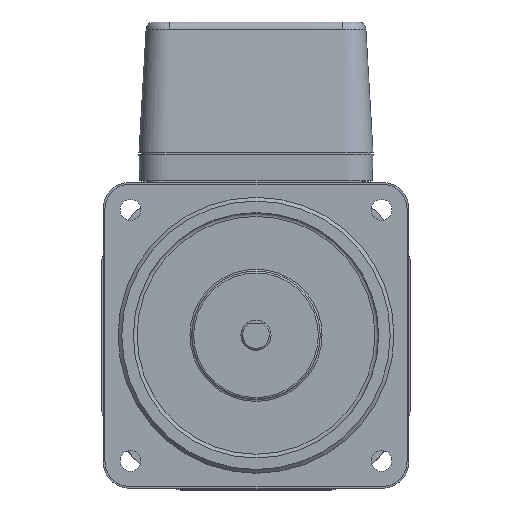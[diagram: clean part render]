
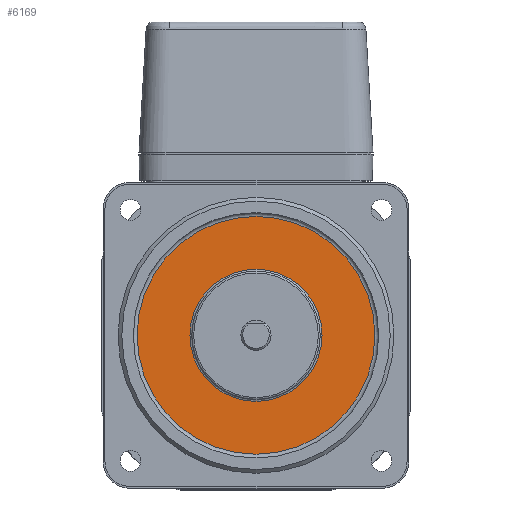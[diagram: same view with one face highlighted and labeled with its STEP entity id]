
A CAD part, top view. The second image highlights one B-rep face of the part: STEP entity #6169.
In plain terms, the highlighted planar face has unit normal (0, 0, 1).
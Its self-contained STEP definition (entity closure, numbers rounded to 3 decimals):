
#377 = CARTESIAN_POINT ( 'NONE',  ( 0., 0., -3.3 ) ) ;
#619 = DIRECTION ( 'NONE',  ( 0., 0., 1. ) ) ;
#754 = EDGE_LOOP ( 'NONE', ( #8415 ) ) ;
#1013 = CIRCLE ( 'NONE', #8429, 31.5 ) ;
#1910 = EDGE_CURVE ( 'NONE', #7529, #7529, #1013, .T. ) ;
#1920 = FACE_OUTER_BOUND ( 'NONE', #754, .T. ) ;
#2014 = CARTESIAN_POINT ( 'NONE',  ( 17.5, 0., -3.3 ) ) ;
#3142 = CARTESIAN_POINT ( 'NONE',  ( 31.5, 0., -3.3 ) ) ;
#3393 = EDGE_LOOP ( 'NONE', ( #11959 ) ) ;
#3603 = PLANE ( 'NONE',  #5941 ) ;
#3859 = CIRCLE ( 'NONE', #9418, 17.5 ) ;
#4067 = VERTEX_POINT ( 'NONE', #2014 ) ;
#5209 = FACE_BOUND ( 'NONE', #3393, .T. ) ;
#5279 = CARTESIAN_POINT ( 'NONE',  ( 0., 0., -3.3 ) ) ;
#5473 = DIRECTION ( 'NONE',  ( 1., 0., 0. ) ) ;
#5941 = AXIS2_PLACEMENT_3D ( 'NONE', #11144, #10262, #5473 ) ;
#6169 = ADVANCED_FACE ( 'NONE', ( #1920, #5209 ), #3603, .T. ) ;
#6476 = EDGE_CURVE ( 'NONE', #4067, #4067, #3859, .T. ) ;
#7300 = DIRECTION ( 'NONE',  ( 1., 0., 0. ) ) ;
#7529 = VERTEX_POINT ( 'NONE', #3142 ) ;
#7951 = DIRECTION ( 'NONE',  ( 0., 0., -1. ) ) ;
#8415 = ORIENTED_EDGE ( 'NONE', *, *, #1910, .T. ) ;
#8429 = AXIS2_PLACEMENT_3D ( 'NONE', #5279, #619, #7300 ) ;
#9418 = AXIS2_PLACEMENT_3D ( 'NONE', #377, #7951, #10832 ) ;
#10262 = DIRECTION ( 'NONE',  ( 0., 0., 1. ) ) ;
#10832 = DIRECTION ( 'NONE',  ( 1., 0., 0. ) ) ;
#11144 = CARTESIAN_POINT ( 'NONE',  ( 0., 0., -3.3 ) ) ;
#11959 = ORIENTED_EDGE ( 'NONE', *, *, #6476, .T. ) ;
